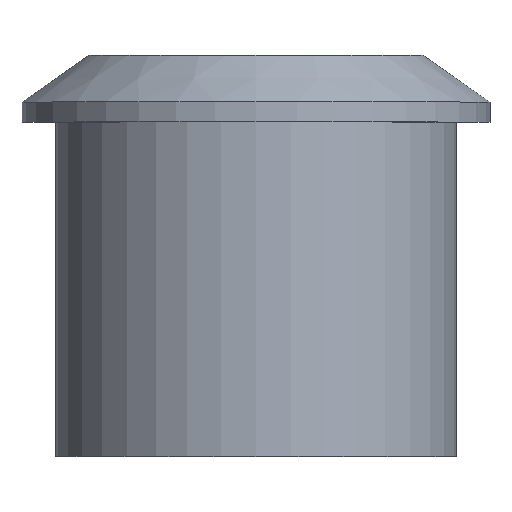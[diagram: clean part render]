
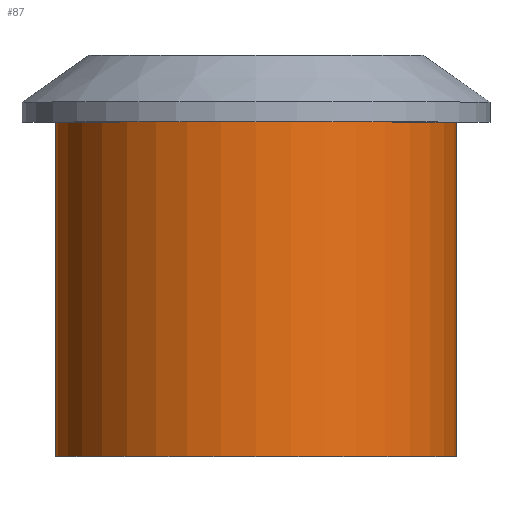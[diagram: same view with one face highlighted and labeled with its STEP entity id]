
A CAD part, top view. The second image highlights one B-rep face of the part: STEP entity #87.
In plain terms, the highlighted cylindrical face has radius 6 mm (diameter 12 mm), a full revolution.
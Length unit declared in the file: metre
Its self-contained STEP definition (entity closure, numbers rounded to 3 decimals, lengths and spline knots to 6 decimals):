
#13=CYLINDRICAL_SURFACE('',#113,0.006);
#27=ORIENTED_EDGE('',*,*,#38,.F.);
#28=ORIENTED_EDGE('',*,*,#36,.T.);
#36=EDGE_CURVE('',#43,#43,#50,.T.);
#38=EDGE_CURVE('',#45,#45,#52,.T.);
#43=VERTEX_POINT('',#162);
#45=VERTEX_POINT('',#168);
#50=CIRCLE('',#110,0.006);
#52=CIRCLE('',#114,0.006);
#62=EDGE_LOOP('',(#27));
#63=EDGE_LOOP('',(#28));
#76=FACE_BOUND('',#62,.T.);
#77=FACE_BOUND('',#63,.T.);
#87=ADVANCED_FACE('',(#76,#77),#13,.T.);
#110=AXIS2_PLACEMENT_3D('',#161,#133,#134);
#113=AXIS2_PLACEMENT_3D('',#166,#139,#140);
#114=AXIS2_PLACEMENT_3D('',#167,#141,#142);
#133=DIRECTION('',(0.,-1.,0.));
#134=DIRECTION('',(0.,0.,-1.));
#139=DIRECTION('',(0.,1.,0.));
#140=DIRECTION('',(0.,0.,1.));
#141=DIRECTION('',(0.,-1.,0.));
#142=DIRECTION('',(0.,0.,-1.));
#161=CARTESIAN_POINT('',(0.017708,0.040785,0.006863));
#162=CARTESIAN_POINT('',(0.017708,0.040785,0.000863));
#166=CARTESIAN_POINT('',(0.017708,0.030785,0.006863));
#167=CARTESIAN_POINT('',(0.017708,0.030785,0.006863));
#168=CARTESIAN_POINT('',(0.017708,0.030785,0.000863));
